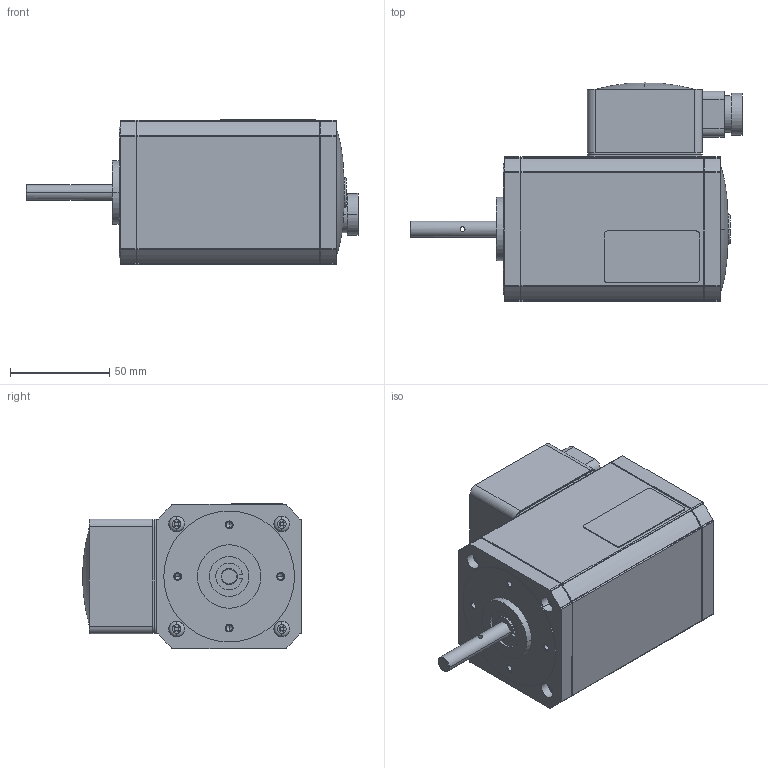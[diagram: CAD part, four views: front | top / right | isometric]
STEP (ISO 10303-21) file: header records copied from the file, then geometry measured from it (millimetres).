
FILE_DESCRIPTION( ( '' ), '1' );
FILE_NAME( '//partserver002.servicenet/client_exchange/iodir/jobs/output/wkb22747573_no0/STEP/igk_65_40__2264315_ohne_fuss_ohne_bremse_2_polig_2_03.stp', '2010-02-25T19:19:30', ( '' ), ( '' ), ' ', ' ', ' ' );
FILE_SCHEMA( ( 'CONFIG_CONTROL_DESIGN' ) );
Length unit declared in the file: millimetre
Products named in the file (1): 1
Bounding box: 167.5 x 110.5 x 73.5 mm (x, y, z)
Volume: 709445.9 mm3; surface area: 54529.4 mm2
Topology: 1 solids, 1 shells, 380 faces, 1007 edges, 665 vertices
Faces by surface type: plane 178, cylinder 158, torus 24, cone 20
Entity records: 11973 total; most frequent: DIRECTION 2171, CARTESIAN_POINT 2113, ORIENTED_EDGE 1994, EDGE_CURVE 997, AXIS2_PLACEMENT_3D 799, VERTEX_POINT 665, LINE 573, VECTOR 573
